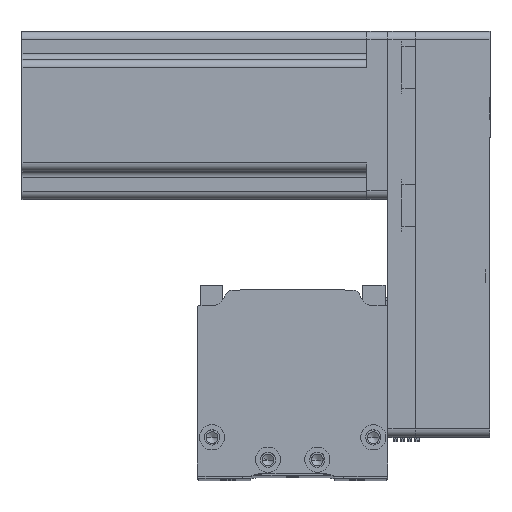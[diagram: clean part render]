
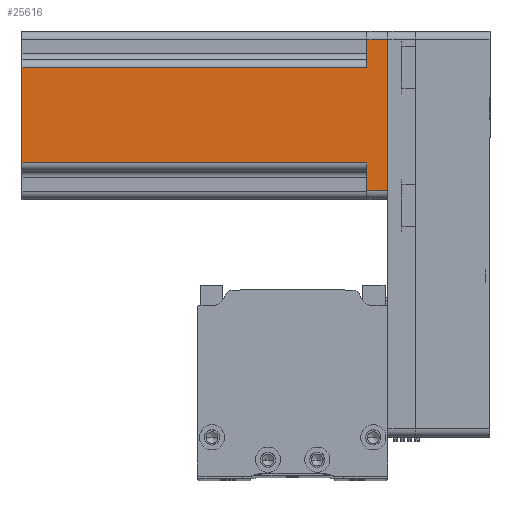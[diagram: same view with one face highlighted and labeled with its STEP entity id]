
A CAD part, top view. The second image highlights one B-rep face of the part: STEP entity #25616.
In plain terms, the highlighted planar face has unit normal (0, 0, 1) as drawn and (0, -1, 0) by its records, which use the part's own axes.
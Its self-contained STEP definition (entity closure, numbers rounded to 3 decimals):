
#1579 = VECTOR ( 'NONE', #18203, 1000. ) ;
#1925 = AXIS2_PLACEMENT_3D ( 'NONE', #24110, #2855, #27661 ) ;
#2059 = VERTEX_POINT ( 'NONE', #19191 ) ;
#2825 = VERTEX_POINT ( 'NONE', #44456 ) ;
#2855 = DIRECTION ( 'NONE',  ( 0., 1., 0. ) ) ;
#3340 = LINE ( 'NONE', #26481, #39983 ) ;
#3721 = ORIENTED_EDGE ( 'NONE', *, *, #16501, .F. ) ;
#3908 = EDGE_CURVE ( 'NONE', #30305, #19118, #5821, .T. ) ;
#4969 = EDGE_CURVE ( 'NONE', #19118, #2825, #9377, .T. ) ;
#5220 = DIRECTION ( 'NONE',  ( 0., 0., -1. ) ) ;
#5347 = CARTESIAN_POINT ( 'NONE',  ( 20., -30., 7.5 ) ) ;
#5821 = LINE ( 'NONE', #16609, #23584 ) ;
#7488 = CARTESIAN_POINT ( 'NONE',  ( 30., -30., 130.7 ) ) ;
#7526 = EDGE_LOOP ( 'NONE', ( #3721, #44393, #33597, #23290, #15588, #10311, #11102, #25675 ) ) ;
#8527 = CARTESIAN_POINT ( 'NONE',  ( -27., -30., 7.5 ) ) ;
#9377 = LINE ( 'NONE', #39281, #35504 ) ;
#9811 = PLANE ( 'NONE',  #1925 ) ;
#10311 = ORIENTED_EDGE ( 'NONE', *, *, #4969, .T. ) ;
#11102 = ORIENTED_EDGE ( 'NONE', *, *, #39253, .T. ) ;
#12859 = EDGE_CURVE ( 'NONE', #18076, #33098, #19434, .T. ) ;
#13369 = CARTESIAN_POINT ( 'NONE',  ( -17., -30., 130.7 ) ) ;
#13807 = DIRECTION ( 'NONE',  ( 1., 0., 0. ) ) ;
#13957 = CARTESIAN_POINT ( 'NONE',  ( -20., -30., 7.5 ) ) ;
#15501 = DIRECTION ( 'NONE',  ( 0., 0., 1. ) ) ;
#15588 = ORIENTED_EDGE ( 'NONE', *, *, #3908, .T. ) ;
#16138 = EDGE_CURVE ( 'NONE', #21246, #30305, #3340, .T. ) ;
#16501 = EDGE_CURVE ( 'NONE', #26057, #33098, #21573, .T. ) ;
#16609 = CARTESIAN_POINT ( 'NONE',  ( 30., -30., 0. ) ) ;
#16948 = DIRECTION ( 'NONE',  ( 0., 0., -1. ) ) ;
#17620 = VECTOR ( 'NONE', #13807, 1000. ) ;
#17969 = DIRECTION ( 'NONE',  ( 0., 0., 1. ) ) ;
#18076 = VERTEX_POINT ( 'NONE', #18310 ) ;
#18203 = DIRECTION ( 'NONE',  ( 1., 0., 0. ) ) ;
#18304 = VECTOR ( 'NONE', #15501, 1000. ) ;
#18310 = CARTESIAN_POINT ( 'NONE',  ( 17., -30., 7.5 ) ) ;
#19118 = VERTEX_POINT ( 'NONE', #24600 ) ;
#19191 = CARTESIAN_POINT ( 'NONE',  ( -17., -30., 7.5 ) ) ;
#19434 = LINE ( 'NONE', #36811, #18304 ) ;
#20198 = DIRECTION ( 'NONE',  ( 1., 0., 0. ) ) ;
#21246 = VERTEX_POINT ( 'NONE', #8527 ) ;
#21573 = LINE ( 'NONE', #7488, #1579 ) ;
#23290 = ORIENTED_EDGE ( 'NONE', *, *, #16138, .T. ) ;
#23584 = VECTOR ( 'NONE', #20198, 1000. ) ;
#24110 = CARTESIAN_POINT ( 'NONE',  ( 30., -30., 130.7 ) ) ;
#24600 = CARTESIAN_POINT ( 'NONE',  ( 27., -30., 0. ) ) ;
#25616 = ADVANCED_FACE ( 'NONE', ( #29430 ), #9811, .F. ) ;
#25675 = ORIENTED_EDGE ( 'NONE', *, *, #12859, .T. ) ;
#26057 = VERTEX_POINT ( 'NONE', #41157 ) ;
#26481 = CARTESIAN_POINT ( 'NONE',  ( -27., -30., 130.7 ) ) ;
#27661 = DIRECTION ( 'NONE',  ( -1., 0., 0. ) ) ;
#29430 = FACE_OUTER_BOUND ( 'NONE', #7526, .T. ) ;
#30305 = VERTEX_POINT ( 'NONE', #34806 ) ;
#30332 = CARTESIAN_POINT ( 'NONE',  ( 17., -30., 130.7 ) ) ;
#30378 = EDGE_CURVE ( 'NONE', #21246, #2059, #44881, .T. ) ;
#33098 = VERTEX_POINT ( 'NONE', #30332 ) ;
#33597 = ORIENTED_EDGE ( 'NONE', *, *, #30378, .F. ) ;
#34806 = CARTESIAN_POINT ( 'NONE',  ( -27., -30., 0. ) ) ;
#35504 = VECTOR ( 'NONE', #17969, 1000. ) ;
#36222 = LINE ( 'NONE', #13369, #45669 ) ;
#36811 = CARTESIAN_POINT ( 'NONE',  ( 17., -30., 130.7 ) ) ;
#37188 = DIRECTION ( 'NONE',  ( -1., 0., 0. ) ) ;
#39253 = EDGE_CURVE ( 'NONE', #2825, #18076, #43972, .T. ) ;
#39281 = CARTESIAN_POINT ( 'NONE',  ( 27., -30., 130.7 ) ) ;
#39983 = VECTOR ( 'NONE', #5220, 1000. ) ;
#41157 = CARTESIAN_POINT ( 'NONE',  ( -17., -30., 130.7 ) ) ;
#42219 = EDGE_CURVE ( 'NONE', #26057, #2059, #36222, .T. ) ;
#42840 = VECTOR ( 'NONE', #37188, 1000. ) ;
#43972 = LINE ( 'NONE', #5347, #42840 ) ;
#44393 = ORIENTED_EDGE ( 'NONE', *, *, #42219, .T. ) ;
#44456 = CARTESIAN_POINT ( 'NONE',  ( 27., -30., 7.5 ) ) ;
#44881 = LINE ( 'NONE', #13957, #17620 ) ;
#45669 = VECTOR ( 'NONE', #16948, 1000. ) ;
